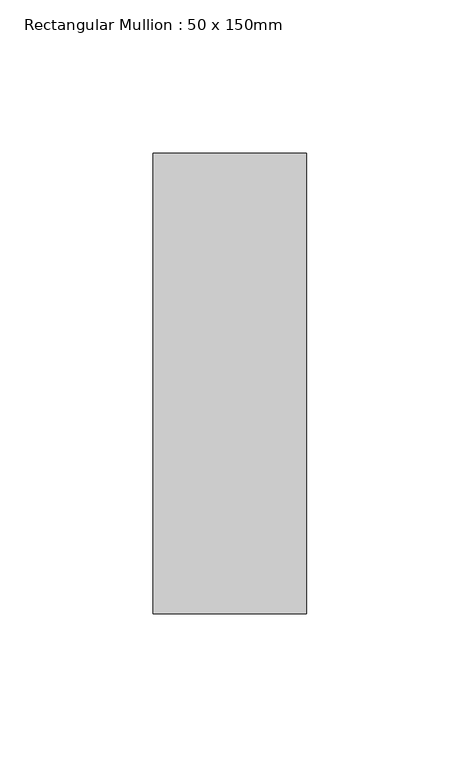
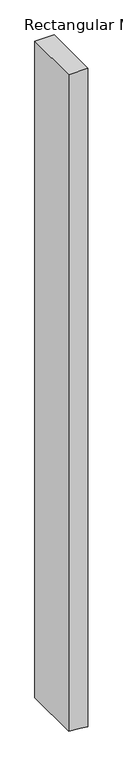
"""IFC4 building model written with IfcOpenShell, lengths in millimetres: member geometry, Rectangular Mullion : 50 x 150mm."""

from ifc_helpers import new_model, si_unit, frame, origin, place, context, project, spatial, polyline, outline, extrude, source, transform, mapped, element, save


def rectangular_mullion_50_x_150mm_3356077e(model_context):
    return source(origin(), model_context, "Body", "SweptSolid", [
        extrude(outline(polyline([(0.0, 25.0), (0.0, -25.0), (-1785.7849564, -25.0), (-1789.2651156, 5.6423937), (-1791.4636238, 25.0), (0.0, 25.0)])), frame((0.0, -75.0, 0.0), z_axis=(0.0, 1.0, 0.0), x_axis=(0.0, 0.0, 1.0)), (0.0, 0.0, 1.0), 150.0),
    ])


if __name__ == "__main__":
    model = new_model("IFC4")
    model_context = context("Model", 3, world=origin())
    ifc_project = project(units=[si_unit("LENGTHUNIT", "METRE", prefix="MILLI")], contexts=[model_context])
    site = spatial("IfcSite", under=ifc_project)
    building = spatial("IfcBuilding", under=site)
    placement = place(None, origin())
    rectangular_mullion_50_x_150mm_shape = rectangular_mullion_50_x_150mm_3356077e(model_context)
    element("IfcMember", 1, ObjectType="Rectangular Mullion : 50 x 150mm", at=placement, inside=building, context=model_context, shape_type="MappedRepresentation", body=[
        mapped(rectangular_mullion_50_x_150mm_shape, transform((0.0, 0.0, 0.0), x_axis=(1.0, 0.0, 0.0), y_axis=(0.0, 1.0, 0.0), z_axis=(0.0, 0.0, 1.0))),
    ])
    save(model, "model.ifc")
